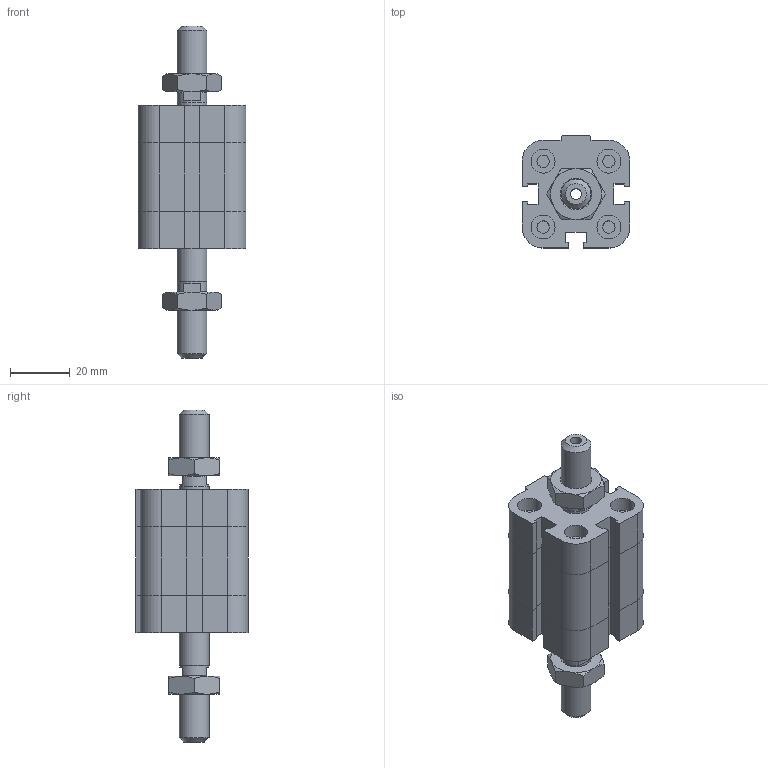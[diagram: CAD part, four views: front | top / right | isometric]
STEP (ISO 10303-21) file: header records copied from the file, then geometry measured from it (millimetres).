
FILE_DESCRIPTION((''),'2;1');
FILE_NAME('I:\Area Tecnica\Disegni\VARIE-3D\Componenti\EUROPE\15##_###_####_05_#\1581_20_0010_05_1.iam.stp','2009-04-20T14:59:46',(''),(''),'Autodesk Inventor 2009','Autodesk Inventor 2009','');
FILE_SCHEMA(('AUTOMOTIVE_DESIGN { 1 0 10303 214 1 1 1 1 }'));
Length unit declared in the file: millimetre
Products named in the file (4): 1581_20_0010_05_1; 1581_20_0010_03_1_C; 1561_20_0010_05_1_S; DBFM10
Assembly tree (4 placements, depth 2):
  1581_20_0010_05_1
    1581_20_0010_03_1_C
    1561_20_0010_05_1_S
    DBFM10  x2
Bounding box: 36 x 37.5 x 111 mm (x, y, z)
Volume: 58114.3 mm3; surface area: 21437 mm2
Topology: 4 solids, 4 shells, 223 faces, 486 edges, 291 vertices
Faces by surface type: plane 129, cone 35, bspline 34, cylinder 25
Full cylindrical faces by diameter (mm): 4.134 x4, 7.9 x1, 8 x4, 9.8 x2, 10 x2
Entity records: 5497 total; most frequent: CARTESIAN_POINT 1244, DIRECTION 806, ORIENTED_EDGE 776, EDGE_CURVE 388, AXIS2_PLACEMENT_3D 274, EDGE_LOOP 262, VECTOR 258, LINE 258
